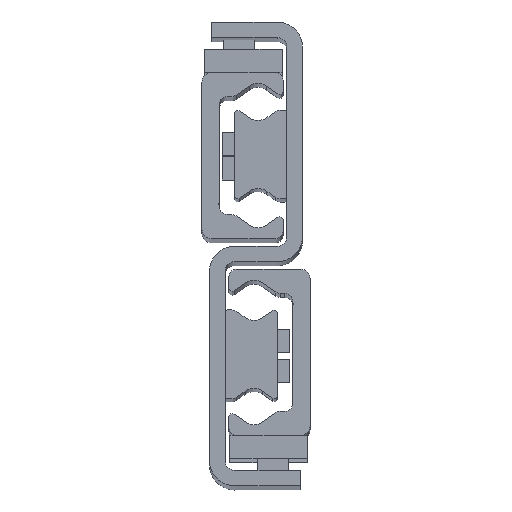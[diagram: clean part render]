
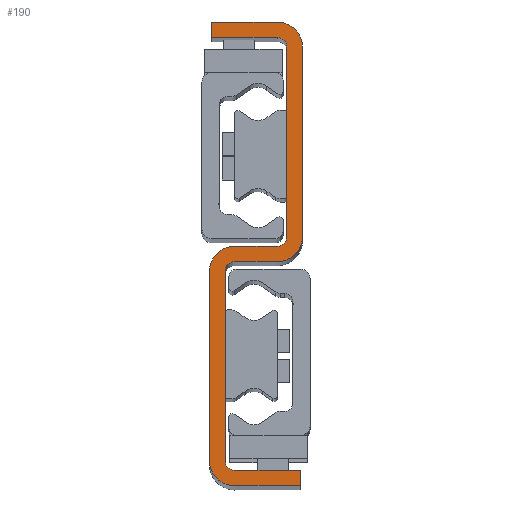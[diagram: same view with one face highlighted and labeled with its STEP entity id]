
A CAD part, top view. The second image highlights one B-rep face of the part: STEP entity #190.
In plain terms, the highlighted planar face has unit normal (0, 0, 1).
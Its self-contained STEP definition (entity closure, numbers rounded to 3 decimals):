
#190=ADVANCED_FACE('',(#577),#578,.T.);
#577=FACE_OUTER_BOUND('',#1151,.T.);
#578=PLANE('',#1152);
#1151=EDGE_LOOP('',(#2349,#2350,#2351,#2352,#2353,#2354,#2355,#2356,#2357,#2358,#2359,#2360,#2361,#2362,#2363,#2364,#2365,#2366,#2367,#2368));
#1152=AXIS2_PLACEMENT_3D('',#2369,#2370,#2371);
#2349=ORIENTED_EDGE('',*,*,#3921,.F.);
#2350=ORIENTED_EDGE('',*,*,#3979,.F.);
#2351=ORIENTED_EDGE('',*,*,#3976,.F.);
#2352=ORIENTED_EDGE('',*,*,#3973,.F.);
#2353=ORIENTED_EDGE('',*,*,#3970,.F.);
#2354=ORIENTED_EDGE('',*,*,#3967,.F.);
#2355=ORIENTED_EDGE('',*,*,#3964,.F.);
#2356=ORIENTED_EDGE('',*,*,#3961,.F.);
#2357=ORIENTED_EDGE('',*,*,#3958,.F.);
#2358=ORIENTED_EDGE('',*,*,#3955,.F.);
#2359=ORIENTED_EDGE('',*,*,#3952,.F.);
#2360=ORIENTED_EDGE('',*,*,#3949,.F.);
#2361=ORIENTED_EDGE('',*,*,#3946,.F.);
#2362=ORIENTED_EDGE('',*,*,#3943,.F.);
#2363=ORIENTED_EDGE('',*,*,#3940,.F.);
#2364=ORIENTED_EDGE('',*,*,#3937,.F.);
#2365=ORIENTED_EDGE('',*,*,#3934,.F.);
#2366=ORIENTED_EDGE('',*,*,#3931,.F.);
#2367=ORIENTED_EDGE('',*,*,#3928,.F.);
#2368=ORIENTED_EDGE('',*,*,#3925,.F.);
#2369=CARTESIAN_POINT('',(-14.,26.,923.0));
#2370=DIRECTION('',(0.0,0.0,1.0));
#2371=DIRECTION('',(1.0,0.0,0.0));
#3921=EDGE_CURVE('',#4779,#4780,#4781,.T.);
#3925=EDGE_CURVE('',#4780,#4787,#4788,.T.);
#3928=EDGE_CURVE('',#4787,#4792,#4793,.T.);
#3931=EDGE_CURVE('',#4792,#4797,#4798,.T.);
#3934=EDGE_CURVE('',#4797,#4802,#4803,.T.);
#3937=EDGE_CURVE('',#4802,#4807,#4808,.T.);
#3940=EDGE_CURVE('',#4807,#4812,#4813,.T.);
#3943=EDGE_CURVE('',#4812,#4817,#4818,.T.);
#3946=EDGE_CURVE('',#4817,#4822,#4823,.T.);
#3949=EDGE_CURVE('',#4822,#4827,#4828,.T.);
#3952=EDGE_CURVE('',#4827,#4832,#4833,.T.);
#3955=EDGE_CURVE('',#4832,#4837,#4838,.T.);
#3958=EDGE_CURVE('',#4837,#4842,#4843,.T.);
#3961=EDGE_CURVE('',#4842,#4847,#4848,.T.);
#3964=EDGE_CURVE('',#4847,#4852,#4853,.T.);
#3967=EDGE_CURVE('',#4852,#4857,#4858,.T.);
#3970=EDGE_CURVE('',#4857,#4862,#4863,.T.);
#3973=EDGE_CURVE('',#4862,#4867,#4868,.T.);
#3976=EDGE_CURVE('',#4867,#4872,#4873,.T.);
#3979=EDGE_CURVE('',#4872,#4779,#4877,.T.);
#4779=VERTEX_POINT('',#6125);
#4780=VERTEX_POINT('',#6126);
#4781=LINE('',#6127,#6128);
#4787=VERTEX_POINT('',#6137);
#4788=CIRCLE('',#6138,2.5);
#4792=VERTEX_POINT('',#6143);
#4793=LINE('',#6144,#6145);
#4797=VERTEX_POINT('',#6151);
#4798=CIRCLE('',#6152,2.5);
#4802=VERTEX_POINT('',#6157);
#4803=LINE('',#6158,#6159);
#4807=VERTEX_POINT('',#6165);
#4808=LINE('',#6166,#6167);
#4812=VERTEX_POINT('',#6173);
#4813=LINE('',#6174,#6175);
#4817=VERTEX_POINT('',#6181);
#4818=CIRCLE('',#6182,6.5);
#4822=VERTEX_POINT('',#6187);
#4823=LINE('',#6188,#6189);
#4827=VERTEX_POINT('',#6195);
#4828=CIRCLE('',#6196,6.5);
#4832=VERTEX_POINT('',#6201);
#4833=LINE('',#6202,#6203);
#4837=VERTEX_POINT('',#6209);
#4838=CIRCLE('',#6210,2.5);
#4842=VERTEX_POINT('',#6215);
#4843=LINE('',#6216,#6217);
#4847=VERTEX_POINT('',#6223);
#4848=CIRCLE('',#6224,2.5);
#4852=VERTEX_POINT('',#6229);
#4853=LINE('',#6230,#6231);
#4857=VERTEX_POINT('',#6237);
#4858=LINE('',#6238,#6239);
#4862=VERTEX_POINT('',#6245);
#4863=LINE('',#6246,#6247);
#4867=VERTEX_POINT('',#6253);
#4868=CIRCLE('',#6254,6.5);
#4872=VERTEX_POINT('',#6259);
#4873=LINE('',#6260,#6261);
#4877=CIRCLE('',#6267,6.5);
#6125=CARTESIAN_POINT('',(-8.5,24.,923.0));
#6126=CARTESIAN_POINT('',(-19.5,24.,923.0));
#6127=CARTESIAN_POINT('',(-8.5,24.,923.0));
#6128=VECTOR('',#7529,1.0);
#6137=CARTESIAN_POINT('',(-22.,21.5,923.0));
#6138=AXIS2_PLACEMENT_3D('',#7533,#7534,#7535);
#6143=CARTESIAN_POINT('',(-22.,-27.5,923.0));
#6144=CARTESIAN_POINT('',(-22.,-27.5,923.0));
#6145=VECTOR('',#7540,1.0);
#6151=CARTESIAN_POINT('',(-19.5,-30.,923.0));
#6152=AXIS2_PLACEMENT_3D('',#7543,#7544,#7545);
#6157=CARTESIAN_POINT('',(-2.5,-30.,923.0));
#6158=CARTESIAN_POINT('',(-19.5,-30.,923.0));
#6159=VECTOR('',#7550,1.0);
#6165=CARTESIAN_POINT('',(-2.5,-34.,923.0));
#6166=CARTESIAN_POINT('',(-2.5,-34.,923.0));
#6167=VECTOR('',#7553,1.0);
#6173=CARTESIAN_POINT('',(-19.5,-34.,923.0));
#6174=CARTESIAN_POINT('',(-19.5,-34.,923.0));
#6175=VECTOR('',#7556,1.0);
#6181=CARTESIAN_POINT('',(-26.,-27.5,923.0));
#6182=AXIS2_PLACEMENT_3D('',#7559,#7560,#7561);
#6187=CARTESIAN_POINT('',(-26.,21.5,923.0));
#6188=CARTESIAN_POINT('',(-26.,21.5,923.0));
#6189=VECTOR('',#7566,1.0);
#6195=CARTESIAN_POINT('',(-19.5,28.,923.0));
#6196=AXIS2_PLACEMENT_3D('',#7569,#7570,#7571);
#6201=CARTESIAN_POINT('',(-8.5,28.,923.0));
#6202=CARTESIAN_POINT('',(-8.5,28.,923.0));
#6203=VECTOR('',#7576,1.0);
#6209=CARTESIAN_POINT('',(-6.,30.5,923.0));
#6210=AXIS2_PLACEMENT_3D('',#7579,#7580,#7581);
#6215=CARTESIAN_POINT('',(-6.,79.5,923.0));
#6216=CARTESIAN_POINT('',(-6.,79.5,923.0));
#6217=VECTOR('',#7586,1.0);
#6223=CARTESIAN_POINT('',(-8.5,82.,923.0));
#6224=AXIS2_PLACEMENT_3D('',#7589,#7590,#7591);
#6229=CARTESIAN_POINT('',(-25.5,82.,923.0));
#6230=CARTESIAN_POINT('',(-25.5,82.,923.0));
#6231=VECTOR('',#7596,1.0);
#6237=CARTESIAN_POINT('',(-25.5,86.,923.0));
#6238=CARTESIAN_POINT('',(-25.5,86.,923.0));
#6239=VECTOR('',#7599,1.0);
#6245=CARTESIAN_POINT('',(-8.5,86.,923.0));
#6246=CARTESIAN_POINT('',(-25.5,86.,923.0));
#6247=VECTOR('',#7602,1.0);
#6253=CARTESIAN_POINT('',(-2.,79.5,923.0));
#6254=AXIS2_PLACEMENT_3D('',#7605,#7606,#7607);
#6259=CARTESIAN_POINT('',(-2.,30.5,923.0));
#6260=CARTESIAN_POINT('',(-2.,79.5,923.0));
#6261=VECTOR('',#7612,1.0);
#6267=AXIS2_PLACEMENT_3D('',#7615,#7616,#7617);
#7529=DIRECTION('',(-1.0,0.,0.0));
#7533=CARTESIAN_POINT('',(-19.5,21.5,923.0));
#7534=DIRECTION('',(0.0,0.0,1.0));
#7535=DIRECTION('',(1.0,0.0,0.0));
#7540=DIRECTION('',(-0.0,-1.0,-0.0));
#7543=CARTESIAN_POINT('',(-19.5,-27.5,923.0));
#7544=DIRECTION('',(0.0,0.0,1.0));
#7545=DIRECTION('',(1.0,0.0,0.0));
#7550=DIRECTION('',(1.,0.,0.0));
#7553=DIRECTION('',(-0.0,-1.0,-0.0));
#7556=DIRECTION('',(-1.,0.,-0.0));
#7559=CARTESIAN_POINT('',(-19.5,-27.5,923.0));
#7560=DIRECTION('',(0.0,0.0,-1.0));
#7561=DIRECTION('',(1.0,0.0,0.0));
#7566=DIRECTION('',(0.0,1.0,0.0));
#7569=CARTESIAN_POINT('',(-19.5,21.5,923.0));
#7570=DIRECTION('',(0.0,0.0,-1.0));
#7571=DIRECTION('',(1.0,0.0,0.0));
#7576=DIRECTION('',(1.0,0.,0.0));
#7579=CARTESIAN_POINT('',(-8.5,30.5,923.0));
#7580=DIRECTION('',(0.0,0.0,1.0));
#7581=DIRECTION('',(1.0,0.0,0.0));
#7586=DIRECTION('',(0.0,1.0,0.0));
#7589=CARTESIAN_POINT('',(-8.5,79.5,923.0));
#7590=DIRECTION('',(0.0,0.0,1.0));
#7591=DIRECTION('',(1.0,0.0,0.0));
#7596=DIRECTION('',(-1.,0.,0.0));
#7599=DIRECTION('',(0.0,1.0,0.0));
#7602=DIRECTION('',(1.,0.,0.0));
#7605=CARTESIAN_POINT('',(-8.5,79.5,923.0));
#7606=DIRECTION('',(0.0,0.0,-1.0));
#7607=DIRECTION('',(1.0,0.0,0.0));
#7612=DIRECTION('',(0.,-1.0,0.0));
#7615=CARTESIAN_POINT('',(-8.5,30.5,923.0));
#7616=DIRECTION('',(0.0,0.0,-1.0));
#7617=DIRECTION('',(1.0,0.0,0.0));
